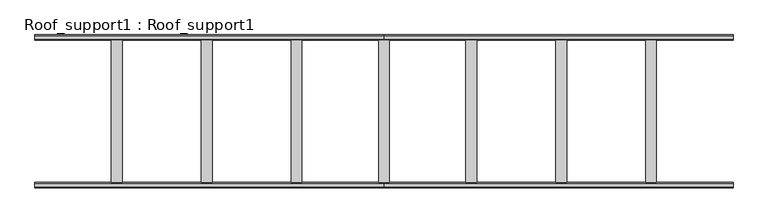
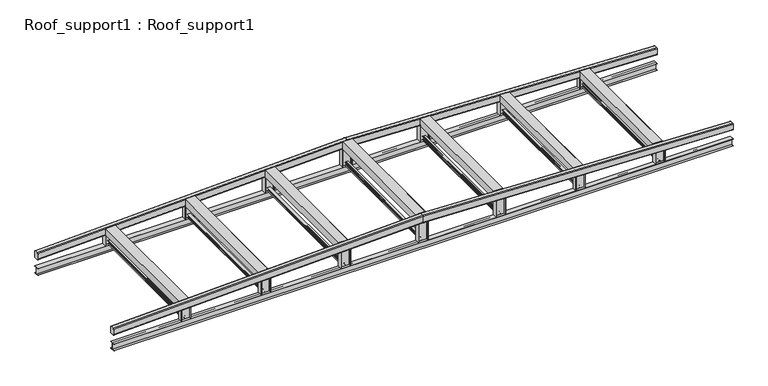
"""IFC4 building model written with IfcOpenShell, lengths in millimetres: beam geometry, Roof_support1 : Roof_support1."""

from ifc_helpers import new_model, si_unit, point, frame, frame_2d, origin, place, context, project, spatial, polyline, circle_curve, trimmed, segment, composite_curve, outline, extrude, source, transform, mapped, element, save
from ifc_brep_helpers import plane_surface, extruded_surface, advanced_brep


def roof_support1_roof_support1_f017d751(model_context):
    return source(origin(), model_context, "Body", "SolidModel", [
        extrude(outline(polyline([(3326.3767243, 5150.0), (3333.4167515, 4948.4), (3177.6863105, 4948.4), (3177.6863105, 4953.4), (3328.2390999, 4953.4), (3321.5482805, 5145.0), (3171.2121292, 5145.0), (3171.0375254, 5150.0), (3326.3767243, 5150.0)])), frame((0.0, -2776.446518, 0.0), z_axis=(0.0, 1.0, 0.0), x_axis=(0.0, 0.0, 1.0)), (0.0, 0.0, 1.0), 2696.8321342),
        extrude(outline(polyline([(3387.6606342, 3450.0), (3394.7006613, 3248.4), (3238.9702203, 3248.4), (3238.9702203, 3253.4), (3389.5230098, 3253.4), (3382.8321903, 3445.0), (3232.4960391, 3445.0), (3232.3214353, 3450.0), (3387.6606342, 3450.0)])), frame((0.0, -2776.446518, 0.0), z_axis=(0.0, 1.0, 0.0), x_axis=(0.0, 0.0, 1.0)), (0.0, 0.0, 1.0), 2696.8321342),
        extrude(outline(polyline([(3448.3765673, 1750.0), (3455.4165944, 1548.4), (3299.6861534, 1548.4), (3299.6861534, 1553.4), (3450.2389429, 1553.4), (3443.5481234, 1745.0), (3293.2119722, 1745.0), (3293.0373683, 1750.0), (3448.3765673, 1750.0)])), frame((0.0, -2776.446518, 0.0), z_axis=(0.0, 1.0, 0.0), x_axis=(0.0, 0.0, 1.0)), (0.0, 0.0, 1.0), 2696.8321342),
        extrude(outline(polyline([(3507.1198461, -100.8), (3340.2193721, -100.8), (3340.393976, -95.8), (3502.1198461, -95.8), (3502.1198461, 95.8), (3340.2799419, 95.8), (3340.2799419, 100.8), (3507.1198461, 100.8), (3507.1198461, -100.8)])), frame((0.0, -2776.446518, 0.0), z_axis=(0.0, 1.0, 0.0), x_axis=(0.0, 0.0, 1.0)), (0.0, 0.0, 1.0), 2696.8321342),
        extrude(outline(polyline([(3446.3767243, -1751.6), (3291.0375254, -1751.6), (3291.2121292, -1746.6), (3441.5482805, -1746.6), (3448.2390999, -1555.0), (3297.6863105, -1555.0), (3297.6863105, -1550.0), (3453.4167515, -1550.0), (3446.3767243, -1751.6)])), frame((0.0, -2776.446518, 0.0), z_axis=(0.0, 1.0, 0.0), x_axis=(0.0, 0.0, 1.0)), (0.0, 0.0, 1.0), 2696.8321342),
        extrude(outline(polyline([(3386.3767243, -3451.6), (3231.0375254, -3451.6), (3231.2121292, -3446.6), (3381.5482805, -3446.6), (3388.2390999, -3255.0), (3237.6863105, -3255.0), (3237.6863105, -3250.0), (3393.4167515, -3250.0), (3386.3767243, -3451.6)])), frame((0.0, -2776.446518, 0.0), z_axis=(0.0, 1.0, 0.0), x_axis=(0.0, 0.0, 1.0)), (0.0, 0.0, 1.0), 2696.8321342),
        extrude(outline(polyline([(3326.3767243, -5151.6), (3171.0375254, -5151.6), (3171.2121292, -5146.6), (3321.5482805, -5146.6), (3328.2390999, -4955.0), (3177.6863105, -4955.0), (3177.6863105, -4950.0), (3333.4167515, -4950.0), (3326.3767243, -5151.6)])), frame((0.0, -2776.446518, 0.0), z_axis=(0.0, 1.0, 0.0), x_axis=(0.0, 0.0, 1.0)), (0.0, 0.0, 1.0), 2696.8321342),
        extrude(outline(composite_curve([segment(polyline([(3003.6, 5081.7625), (3003.6, 5021.4375), (3000.388379, 5021.4375)]), True, "CONTINUOUS"), segment(trimmed(circle_curve(frame_2d((3000.388379, 5023.9312396)), 2.4937396), [point((3000.388379, 5021.4375))], [point((2997.8946395, 5023.9312396))], False, "CARTESIAN"), True, "CONTINUOUS"), segment(polyline([(2997.8946395, 5023.9312396), (2996.9292635, 5042.3517109)]), True, "CONTINUOUS"), segment(trimmed(circle_curve(frame_2d((2990.0622374, 5042.3517109)), 6.8670261), [point((2996.9292635, 5042.3517109))], [point((2990.0622374, 5049.218737))], True, "CARTESIAN"), True, "CONTINUOUS"), segment(polyline([(2990.0622374, 5049.218737), (2940.985965, 5049.218737)]), True, "CONTINUOUS"), segment(trimmed(circle_curve(frame_2d((2940.985965, 5042.3506877)), 6.8680494), [point((2940.985965, 5049.218737))], [point((2934.1179156, 5042.3506877))], True, "CARTESIAN"), True, "CONTINUOUS"), segment(polyline([(2934.1179156, 5042.3506877), (2933.1492258, 5023.8669861)]), True, "CONTINUOUS"), segment(trimmed(circle_curve(frame_2d((2930.6065942, 5024.0002397)), 2.546121), [point((2933.1492258, 5023.8669861))], [point((2930.5621583, 5021.4545065))], False, "CARTESIAN"), True, "CONTINUOUS"), segment(polyline([(2930.5621583, 5021.4545065), (2927.4, 5021.4545065), (2927.4, 5081.7454935), (2930.5621583, 5081.7454935)]), True, "CONTINUOUS"), segment(trimmed(circle_curve(frame_2d((2930.6065942, 5079.1997603)), 2.546121), [point((2930.5621583, 5081.7454935))], [point((2933.1492258, 5079.3330139))], False, "CARTESIAN"), True, "CONTINUOUS"), segment(polyline([(2933.1492258, 5079.3330139), (2934.1179156, 5060.8493123)]), True, "CONTINUOUS"), segment(trimmed(circle_curve(frame_2d((2940.985965, 5060.8493123)), 6.8680494), [point((2934.1179156, 5060.8493123))], [point((2940.985965, 5053.981263))], True, "CARTESIAN"), True, "CONTINUOUS"), segment(polyline([(2940.985965, 5053.981263), (2990.0622374, 5053.981263)]), True, "CONTINUOUS"), segment(trimmed(circle_curve(frame_2d((2990.0622374, 5060.8482891)), 6.8670261), [point((2990.0622374, 5053.981263))], [point((2996.9292635, 5060.8482891))], True, "CARTESIAN"), True, "CONTINUOUS"), segment(polyline([(2996.9292635, 5060.8482891), (2997.8946395, 5079.2687604)]), True, "CONTINUOUS"), segment(trimmed(circle_curve(frame_2d((3000.388379, 5079.2687604)), 2.4937396), [point((2997.8946395, 5079.2687604))], [point((3000.388379, 5081.7625))], False, "CARTESIAN"), True, "CONTINUOUS"), segment(polyline([(3000.388379, 5081.7625), (3003.6, 5081.7625)]), True, "CONTINUOUS")], self_intersect=False)), frame((0.0, -2824.0353472, 0.0), z_axis=(0.0, 1.0, 0.0), x_axis=(0.0, 0.0, 1.0)), (0.0, 0.0, 1.0), 2792.0097926),
        extrude(outline(composite_curve([segment(polyline([(3003.6, 3381.7625), (3003.6, 3321.4375), (3000.388379, 3321.4375)]), True, "CONTINUOUS"), segment(trimmed(circle_curve(frame_2d((3000.388379, 3323.9312396)), 2.4937396), [point((3000.388379, 3321.4375))], [point((2997.8946395, 3323.9312396))], False, "CARTESIAN"), True, "CONTINUOUS"), segment(polyline([(2997.8946395, 3323.9312396), (2996.9292635, 3342.3517109)]), True, "CONTINUOUS"), segment(trimmed(circle_curve(frame_2d((2990.0622374, 3342.3517109)), 6.8670261), [point((2996.9292635, 3342.3517109))], [point((2990.0622374, 3349.218737))], True, "CARTESIAN"), True, "CONTINUOUS"), segment(polyline([(2990.0622374, 3349.218737), (2940.985965, 3349.218737)]), True, "CONTINUOUS"), segment(trimmed(circle_curve(frame_2d((2940.985965, 3342.3506877)), 6.8680494), [point((2940.985965, 3349.218737))], [point((2934.1179156, 3342.3506877))], True, "CARTESIAN"), True, "CONTINUOUS"), segment(polyline([(2934.1179156, 3342.3506877), (2933.1492258, 3323.8669861)]), True, "CONTINUOUS"), segment(trimmed(circle_curve(frame_2d((2930.6065942, 3324.0002397)), 2.546121), [point((2933.1492258, 3323.8669861))], [point((2930.5621583, 3321.4545065))], False, "CARTESIAN"), True, "CONTINUOUS"), segment(polyline([(2930.5621583, 3321.4545065), (2927.4, 3321.4545065), (2927.4, 3381.7454935), (2930.5621583, 3381.7454935)]), True, "CONTINUOUS"), segment(trimmed(circle_curve(frame_2d((2930.6065942, 3379.1997603)), 2.546121), [point((2930.5621583, 3381.7454935))], [point((2933.1492258, 3379.3330139))], False, "CARTESIAN"), True, "CONTINUOUS"), segment(polyline([(2933.1492258, 3379.3330139), (2934.1179156, 3360.8493123)]), True, "CONTINUOUS"), segment(trimmed(circle_curve(frame_2d((2940.985965, 3360.8493123)), 6.8680494), [point((2934.1179156, 3360.8493123))], [point((2940.985965, 3353.981263))], True, "CARTESIAN"), True, "CONTINUOUS"), segment(polyline([(2940.985965, 3353.981263), (2990.0622374, 3353.981263)]), True, "CONTINUOUS"), segment(trimmed(circle_curve(frame_2d((2990.0622374, 3360.8482891)), 6.8670261), [point((2990.0622374, 3353.981263))], [point((2996.9292635, 3360.8482891))], True, "CARTESIAN"), True, "CONTINUOUS"), segment(polyline([(2996.9292635, 3360.8482891), (2997.8946395, 3379.2687604)]), True, "CONTINUOUS"), segment(trimmed(circle_curve(frame_2d((3000.388379, 3379.2687604)), 2.4937396), [point((2997.8946395, 3379.2687604))], [point((3000.388379, 3381.7625))], False, "CARTESIAN"), True, "CONTINUOUS"), segment(polyline([(3000.388379, 3381.7625), (3003.6, 3381.7625)]), True, "CONTINUOUS")], self_intersect=False)), frame((0.0, -2824.0353472, 0.0), z_axis=(0.0, 1.0, 0.0), x_axis=(0.0, 0.0, 1.0)), (0.0, 0.0, 1.0), 2792.0097926),
        extrude(outline(composite_curve([segment(polyline([(3003.6, 1681.7625), (3003.6, 1621.4375), (3000.388379, 1621.4375)]), True, "CONTINUOUS"), segment(trimmed(circle_curve(frame_2d((3000.388379, 1623.9312396)), 2.4937396), [point((3000.388379, 1621.4375))], [point((2997.8946395, 1623.9312396))], False, "CARTESIAN"), True, "CONTINUOUS"), segment(polyline([(2997.8946395, 1623.9312396), (2996.9292635, 1642.3517109)]), True, "CONTINUOUS"), segment(trimmed(circle_curve(frame_2d((2990.0622374, 1642.3517109)), 6.8670261), [point((2996.9292635, 1642.3517109))], [point((2990.0622374, 1649.218737))], True, "CARTESIAN"), True, "CONTINUOUS"), segment(polyline([(2990.0622374, 1649.218737), (2940.985965, 1649.218737)]), True, "CONTINUOUS"), segment(trimmed(circle_curve(frame_2d((2940.985965, 1642.3506877)), 6.8680494), [point((2940.985965, 1649.218737))], [point((2934.1179156, 1642.3506877))], True, "CARTESIAN"), True, "CONTINUOUS"), segment(polyline([(2934.1179156, 1642.3506877), (2933.1492258, 1623.8669861)]), True, "CONTINUOUS"), segment(trimmed(circle_curve(frame_2d((2930.6065942, 1624.0002397)), 2.546121), [point((2933.1492258, 1623.8669861))], [point((2930.5621583, 1621.4545065))], False, "CARTESIAN"), True, "CONTINUOUS"), segment(polyline([(2930.5621583, 1621.4545065), (2927.4, 1621.4545065), (2927.4, 1681.7454935), (2930.5621583, 1681.7454935)]), True, "CONTINUOUS"), segment(trimmed(circle_curve(frame_2d((2930.6065942, 1679.1997603)), 2.546121), [point((2930.5621583, 1681.7454935))], [point((2933.1492258, 1679.3330139))], False, "CARTESIAN"), True, "CONTINUOUS"), segment(polyline([(2933.1492258, 1679.3330139), (2934.1179156, 1660.8493123)]), True, "CONTINUOUS"), segment(trimmed(circle_curve(frame_2d((2940.985965, 1660.8493123)), 6.8680494), [point((2934.1179156, 1660.8493123))], [point((2940.985965, 1653.981263))], True, "CARTESIAN"), True, "CONTINUOUS"), segment(polyline([(2940.985965, 1653.981263), (2990.0622374, 1653.981263)]), True, "CONTINUOUS"), segment(trimmed(circle_curve(frame_2d((2990.0622374, 1660.8482891)), 6.8670261), [point((2990.0622374, 1653.981263))], [point((2996.9292635, 1660.8482891))], True, "CARTESIAN"), True, "CONTINUOUS"), segment(polyline([(2996.9292635, 1660.8482891), (2997.8946395, 1679.2687604)]), True, "CONTINUOUS"), segment(trimmed(circle_curve(frame_2d((3000.388379, 1679.2687604)), 2.4937396), [point((2997.8946395, 1679.2687604))], [point((3000.388379, 1681.7625))], False, "CARTESIAN"), True, "CONTINUOUS"), segment(polyline([(3000.388379, 1681.7625), (3003.6, 1681.7625)]), True, "CONTINUOUS")], self_intersect=False)), frame((0.0, -2824.0353472, 0.0), z_axis=(0.0, 1.0, 0.0), x_axis=(0.0, 0.0, 1.0)), (0.0, 0.0, 1.0), 2792.0097926),
        extrude(outline(composite_curve([segment(polyline([(3003.6, 31.7625), (3003.6, -28.5625), (3000.388379, -28.5625)]), True, "CONTINUOUS"), segment(trimmed(circle_curve(frame_2d((3000.388379, -26.0687604)), 2.4937396), [point((3000.388379, -28.5625))], [point((2997.8946395, -26.0687604))], False, "CARTESIAN"), True, "CONTINUOUS"), segment(polyline([(2997.8946395, -26.0687604), (2996.9292635, -7.6482891)]), True, "CONTINUOUS"), segment(trimmed(circle_curve(frame_2d((2990.0622374, -7.6482891)), 6.8670261), [point((2996.9292635, -7.6482891))], [point((2990.0622374, -0.781263))], True, "CARTESIAN"), True, "CONTINUOUS"), segment(polyline([(2990.0622374, -0.781263), (2940.985965, -0.781263)]), True, "CONTINUOUS"), segment(trimmed(circle_curve(frame_2d((2940.985965, -7.6493123)), 6.8680494), [point((2940.985965, -0.781263))], [point((2934.1179156, -7.6493123))], True, "CARTESIAN"), True, "CONTINUOUS"), segment(polyline([(2934.1179156, -7.6493123), (2933.1492258, -26.1330139)]), True, "CONTINUOUS"), segment(trimmed(circle_curve(frame_2d((2930.6065942, -25.9997603)), 2.546121), [point((2933.1492258, -26.1330139))], [point((2930.5621583, -28.5454935))], False, "CARTESIAN"), True, "CONTINUOUS"), segment(polyline([(2930.5621583, -28.5454935), (2927.4, -28.5454935), (2927.4, 31.7454935), (2930.5621583, 31.7454935)]), True, "CONTINUOUS"), segment(trimmed(circle_curve(frame_2d((2930.6065942, 29.1997603)), 2.546121), [point((2930.5621583, 31.7454935))], [point((2933.1492258, 29.3330139))], False, "CARTESIAN"), True, "CONTINUOUS"), segment(polyline([(2933.1492258, 29.3330139), (2934.1179156, 10.8493123)]), True, "CONTINUOUS"), segment(trimmed(circle_curve(frame_2d((2940.985965, 10.8493123)), 6.8680494), [point((2934.1179156, 10.8493123))], [point((2940.985965, 3.981263))], True, "CARTESIAN"), True, "CONTINUOUS"), segment(polyline([(2940.985965, 3.981263), (2990.0622374, 3.981263)]), True, "CONTINUOUS"), segment(trimmed(circle_curve(frame_2d((2990.0622374, 10.8482891)), 6.8670261), [point((2990.0622374, 3.981263))], [point((2996.9292635, 10.8482891))], True, "CARTESIAN"), True, "CONTINUOUS"), segment(polyline([(2996.9292635, 10.8482891), (2997.8946395, 29.2687604)]), True, "CONTINUOUS"), segment(trimmed(circle_curve(frame_2d((3000.388379, 29.2687604)), 2.4937396), [point((2997.8946395, 29.2687604))], [point((3000.388379, 31.7625))], False, "CARTESIAN"), True, "CONTINUOUS"), segment(polyline([(3000.388379, 31.7625), (3003.6, 31.7625)]), True, "CONTINUOUS")], self_intersect=False)), frame((0.0, -2824.0353472, 0.0), z_axis=(0.0, 1.0, 0.0), x_axis=(0.0, 0.0, 1.0)), (0.0, 0.0, 1.0), 2792.0097926),
        extrude(outline(composite_curve([segment(polyline([(3003.6, -1619.8375), (3003.6, -1680.1625), (3000.388379, -1680.1625)]), True, "CONTINUOUS"), segment(trimmed(circle_curve(frame_2d((3000.388379, -1677.6687604)), 2.4937396), [point((3000.388379, -1680.1625))], [point((2997.8946395, -1677.6687604))], False, "CARTESIAN"), True, "CONTINUOUS"), segment(polyline([(2997.8946395, -1677.6687604), (2996.9292635, -1659.2482891)]), True, "CONTINUOUS"), segment(trimmed(circle_curve(frame_2d((2990.0622374, -1659.2482891)), 6.8670261), [point((2996.9292635, -1659.2482891))], [point((2990.0622374, -1652.381263))], True, "CARTESIAN"), True, "CONTINUOUS"), segment(polyline([(2990.0622374, -1652.381263), (2940.985965, -1652.381263)]), True, "CONTINUOUS"), segment(trimmed(circle_curve(frame_2d((2940.985965, -1659.2493123)), 6.8680494), [point((2940.985965, -1652.381263))], [point((2934.1179156, -1659.2493123))], True, "CARTESIAN"), True, "CONTINUOUS"), segment(polyline([(2934.1179156, -1659.2493123), (2933.1492258, -1677.7330139)]), True, "CONTINUOUS"), segment(trimmed(circle_curve(frame_2d((2930.6065942, -1677.5997603)), 2.546121), [point((2933.1492258, -1677.7330139))], [point((2930.5621583, -1680.1454935))], False, "CARTESIAN"), True, "CONTINUOUS"), segment(polyline([(2930.5621583, -1680.1454935), (2927.4, -1680.1454935), (2927.4, -1619.8545065), (2930.5621583, -1619.8545065)]), True, "CONTINUOUS"), segment(trimmed(circle_curve(frame_2d((2930.6065942, -1622.4002397)), 2.546121), [point((2930.5621583, -1619.8545065))], [point((2933.1492258, -1622.2669861))], False, "CARTESIAN"), True, "CONTINUOUS"), segment(polyline([(2933.1492258, -1622.2669861), (2934.1179156, -1640.7506877)]), True, "CONTINUOUS"), segment(trimmed(circle_curve(frame_2d((2940.985965, -1640.7506877)), 6.8680494), [point((2934.1179156, -1640.7506877))], [point((2940.985965, -1647.618737))], True, "CARTESIAN"), True, "CONTINUOUS"), segment(polyline([(2940.985965, -1647.618737), (2990.0622374, -1647.618737)]), True, "CONTINUOUS"), segment(trimmed(circle_curve(frame_2d((2990.0622374, -1640.7517109)), 6.8670261), [point((2990.0622374, -1647.618737))], [point((2996.9292635, -1640.7517109))], True, "CARTESIAN"), True, "CONTINUOUS"), segment(polyline([(2996.9292635, -1640.7517109), (2997.8946395, -1622.3312396)]), True, "CONTINUOUS"), segment(trimmed(circle_curve(frame_2d((3000.388379, -1622.3312396)), 2.4937396), [point((2997.8946395, -1622.3312396))], [point((3000.388379, -1619.8375))], False, "CARTESIAN"), True, "CONTINUOUS"), segment(polyline([(3000.388379, -1619.8375), (3003.6, -1619.8375)]), True, "CONTINUOUS")], self_intersect=False)), frame((0.0, -2824.0353472, 0.0), z_axis=(0.0, 1.0, 0.0), x_axis=(0.0, 0.0, 1.0)), (0.0, 0.0, 1.0), 2792.0097926),
        extrude(outline(composite_curve([segment(polyline([(3003.6, -3319.8375), (3003.6, -3380.1625), (3000.388379, -3380.1625)]), True, "CONTINUOUS"), segment(trimmed(circle_curve(frame_2d((3000.388379, -3377.6687604)), 2.4937396), [point((3000.388379, -3380.1625))], [point((2997.8946395, -3377.6687604))], False, "CARTESIAN"), True, "CONTINUOUS"), segment(polyline([(2997.8946395, -3377.6687604), (2996.9292635, -3359.2482891)]), True, "CONTINUOUS"), segment(trimmed(circle_curve(frame_2d((2990.0622374, -3359.2482891)), 6.8670261), [point((2996.9292635, -3359.2482891))], [point((2990.0622374, -3352.381263))], True, "CARTESIAN"), True, "CONTINUOUS"), segment(polyline([(2990.0622374, -3352.381263), (2940.985965, -3352.381263)]), True, "CONTINUOUS"), segment(trimmed(circle_curve(frame_2d((2940.985965, -3359.2493123)), 6.8680494), [point((2940.985965, -3352.381263))], [point((2934.1179156, -3359.2493123))], True, "CARTESIAN"), True, "CONTINUOUS"), segment(polyline([(2934.1179156, -3359.2493123), (2933.1492258, -3377.7330139)]), True, "CONTINUOUS"), segment(trimmed(circle_curve(frame_2d((2930.6065942, -3377.5997603)), 2.546121), [point((2933.1492258, -3377.7330139))], [point((2930.5621583, -3380.1454935))], False, "CARTESIAN"), True, "CONTINUOUS"), segment(polyline([(2930.5621583, -3380.1454935), (2927.4, -3380.1454935), (2927.4, -3319.8545065), (2930.5621583, -3319.8545065)]), True, "CONTINUOUS"), segment(trimmed(circle_curve(frame_2d((2930.6065942, -3322.4002397)), 2.546121), [point((2930.5621583, -3319.8545065))], [point((2933.1492258, -3322.2669861))], False, "CARTESIAN"), True, "CONTINUOUS"), segment(polyline([(2933.1492258, -3322.2669861), (2934.1179156, -3340.7506877)]), True, "CONTINUOUS"), segment(trimmed(circle_curve(frame_2d((2940.985965, -3340.7506877)), 6.8680494), [point((2934.1179156, -3340.7506877))], [point((2940.985965, -3347.618737))], True, "CARTESIAN"), True, "CONTINUOUS"), segment(polyline([(2940.985965, -3347.618737), (2990.0622374, -3347.618737)]), True, "CONTINUOUS"), segment(trimmed(circle_curve(frame_2d((2990.0622374, -3340.7517109)), 6.8670261), [point((2990.0622374, -3347.618737))], [point((2996.9292635, -3340.7517109))], True, "CARTESIAN"), True, "CONTINUOUS"), segment(polyline([(2996.9292635, -3340.7517109), (2997.8946395, -3322.3312396)]), True, "CONTINUOUS"), segment(trimmed(circle_curve(frame_2d((3000.388379, -3322.3312396)), 2.4937396), [point((2997.8946395, -3322.3312396))], [point((3000.388379, -3319.8375))], False, "CARTESIAN"), True, "CONTINUOUS"), segment(polyline([(3000.388379, -3319.8375), (3003.6, -3319.8375)]), True, "CONTINUOUS")], self_intersect=False)), frame((0.0, -2824.0353472, 0.0), z_axis=(0.0, 1.0, 0.0), x_axis=(0.0, 0.0, 1.0)), (0.0, 0.0, 1.0), 2792.0097926),
        extrude(outline(polyline([(-4954.75, -79.6304509), (-4954.75, -32.0304509), (-5145.25, -32.0304509), (-5145.25, -79.6304509), (-5151.6, -79.6304509), (-5151.6, 21.9695491), (-5145.25, 21.9695491), (-5145.25, -25.6304509), (-4954.75, -25.6304509), (-4954.75, 21.9695491), (-4950.0, 21.9695491), (-4950.0, -79.6304509), (-4954.75, -79.6304509)])), frame((0.0, 0.0, 2927.4), z_axis=(0.0, 0.0, 1.0), x_axis=(1.0, 0.0, 0.0)), (0.0, 0.0, 1.0), 243.3969424),
        extrude(outline(polyline([(-3254.75, -79.6304509), (-3254.75, -32.0304509), (-3445.25, -32.0304509), (-3445.25, -79.6304509), (-3451.6, -79.6304509), (-3451.6, 21.9695491), (-3445.25, 21.9695491), (-3445.25, -25.6304509), (-3254.75, -25.6304509), (-3254.75, 21.9695491), (-3250.0, 21.9695491), (-3250.0, -79.6304509), (-3254.75, -79.6304509)])), frame((0.0, 0.0, 2927.4), z_axis=(0.0, 0.0, 1.0), x_axis=(1.0, 0.0, 0.0)), (0.0, 0.0, 1.0), 300.0067041),
        extrude(outline(polyline([(-1554.75, -79.6304509), (-1554.75, -32.0304509), (-1745.25, -32.0304509), (-1745.25, -79.6304509), (-1751.6, -79.6304509), (-1751.6, 21.9695491), (-1745.25, 21.9695491), (-1745.25, -25.6304509), (-1554.75, -25.6304509), (-1554.75, 21.9695491), (-1550.0, 21.9695491), (-1550.0, -79.6304509), (-1554.75, -79.6304509)])), frame((0.0, 0.0, 2927.4), z_axis=(0.0, 0.0, 1.0), x_axis=(1.0, 0.0, 0.0)), (0.0, 0.0, 1.0), 370.0191844),
        extrude(outline(polyline([(4954.75, -79.6304509), (4950.0, -79.6304509), (4950.0, 21.9695491), (4954.75, 21.9695491), (4954.75, -25.6304509), (5145.25, -25.6304509), (5145.25, 21.9695491), (5151.6, 21.9695491), (5151.6, -79.6304509), (5145.25, -79.6304509), (5145.25, -32.0304509), (4954.75, -32.0304509), (4954.75, -79.6304509)])), frame((0.0, 0.0, 2927.4), z_axis=(0.0, 0.0, 1.0), x_axis=(1.0, 0.0, 0.0)), (0.0, 0.0, 1.0), 243.4921623),
        extrude(outline(polyline([(3254.75, -79.6304509), (3250.0, -79.6304509), (3250.0, 21.9695491), (3254.75, 21.9695491), (3254.75, -25.6304509), (3445.25, -25.6304509), (3445.25, 21.9695491), (3451.6, 21.9695491), (3451.6, -79.6304509), (3445.25, -79.6304509), (3445.25, -32.0304509), (3254.75, -32.0304509), (3254.75, -79.6304509)])), frame((0.0, 0.0, 2927.4), z_axis=(0.0, 0.0, 1.0), x_axis=(1.0, 0.0, 0.0)), (0.0, 0.0, 1.0), 300.1949921),
        extrude(outline(polyline([(1554.75, -79.6304509), (1550.0, -79.6304509), (1550.0, 21.9695491), (1554.75, 21.9695491), (1554.75, -25.6304509), (1745.25, -25.6304509), (1745.25, 21.9695491), (1751.6, 21.9695491), (1751.6, -79.6304509), (1745.25, -79.6304509), (1745.25, -32.0304509), (1554.75, -32.0304509), (1554.75, -79.6304509)])), frame((0.0, 0.0, 2927.4), z_axis=(0.0, 0.0, 1.0), x_axis=(1.0, 0.0, 0.0)), (0.0, 0.0, 1.0), 356.5460478),
        extrude(outline(polyline([(-95.25, -79.6304509), (-100.0, -79.6304509), (-100.0, 21.9695491), (-95.25, 21.9695491), (-95.25, -25.6304509), (95.25, -25.6304509), (95.25, 21.9695491), (101.6, 21.9695491), (101.6, -79.6304509), (95.25, -79.6304509), (95.25, -32.0304509), (-95.25, -32.0304509), (-95.25, -79.6304509)])), frame((0.0, 0.0, 2927.4), z_axis=(0.0, 0.0, 1.0), x_axis=(1.0, 0.0, 0.0)), (0.0, 0.0, 1.0), 412.8799419),
        extrude(outline(polyline([(21.9632746, 2927.4), (21.9632746, 2924.2490079), (-25.6255546, 2924.2490079), (-25.6255546, 2778.2490079), (21.9632746, 2778.2490079), (21.9632746, 2775.0490079), (-79.6143838, 2775.0490079), (-79.6143838, 2778.2490079), (-32.0255546, 2778.2490079), (-32.0255546, 2924.2490079), (-79.6143838, 2924.2490079), (-79.6143838, 2927.4), (21.9632746, 2927.4)])), frame((-6597.6, 0.0, 0.0), z_axis=(1.0, 0.0, 0.0), x_axis=(0.0, 1.0, 0.0)), (0.0, 0.0, 1.0), 13195.2),
        advanced_brep(
        [(6597.6, 21.9695491, 3259.0), (6597.6, 5.9695491, 3275.0), (6597.6, -63.5911139, 3275.0), (6597.6, -79.5911139, 3259.0), (6597.6, -79.5911139, 3138.6), (6597.6, -63.5911139, 3122.6), (6597.6, 5.9695491, 3122.6), (6597.6, 21.9695491, 3138.6), (0.0, 21.9695491, 3494.7476636), (0.0, 21.9695491, 3359.6), (0.0, 5.9695491, 3343.6), (0.0, -63.6304509, 3343.6), (0.0, -79.6304509, 3359.6), (0.0, -79.6304509, 3494.7476636), (0.0, -63.6304509, 3510.7476636), (0.0, 5.9695491, 3510.7476636)],
        [
            (0, 1, circle_curve(frame((6597.6, 5.9695491, 3259.0), z_axis=(1.0, 0.0, 0.0), x_axis=(0.0, -1.0, 0.0)), 16.0)),
            (1, 2),
            (2, 3, circle_curve(frame((6597.6, -63.5911139, 3259.0), z_axis=(1.0, 0.0, 0.0), x_axis=(0.0, -1.0, 0.0)), 16.0)),
            (3, 4),
            (4, 5, circle_curve(frame((6597.6, -63.5911139, 3138.6), z_axis=(1.0, 0.0, 0.0), x_axis=(0.0, -1.0, 0.0)), 16.0)),
            (5, 6),
            (6, 7, circle_curve(frame((6597.6, 5.9695491, 3138.6), z_axis=(1.0, 0.0, 0.0), x_axis=(0.0, -1.0, 0.0)), 16.0)),
            (7, 0),
            (8, 9),
            (9, 10, circle_curve(frame((0.0, 5.9695491, 3359.6), z_axis=(-1.0, 0.0, 0.0), x_axis=(0.0, -1.0, 0.0)), 16.0)),
            (10, 11),
            (11, 12, circle_curve(frame((0.0, -63.6304509, 3359.6), z_axis=(-1.0, 0.0, 0.0), x_axis=(0.0, -1.0, 0.0)), 16.0)),
            (12, 13),
            (13, 14, circle_curve(frame((0.0, -63.6304509, 3494.7476636), z_axis=(-1.0, 0.0, 0.0), x_axis=(0.0, -1.0, 0.0)), 16.0)),
            (14, 15),
            (15, 8, circle_curve(frame((0.0, 5.9695491, 3494.7476636), z_axis=(-1.0, 0.0, 0.0), x_axis=(0.0, -1.0, 0.0)), 16.0)),
            (15, 1),
            (0, 8),
            (14, 2),
            (13, 3),
            (12, 4),
            (11, 5),
            (10, 6),
            (9, 7),
        ],
        [
            plane_surface(frame((6597.6, -28.8107824, 3198.8), z_axis=(1.0, 0.0, 0.0), x_axis=(0.0, 1.0, 0.0))),
            plane_surface(frame((0.0, -28.8304509, 3427.1738318), z_axis=(-1.0, 0.0, 0.0), x_axis=(0.0, 1.0, 0.0))),
            extruded_surface(trimmed(circle_curve(frame((0.0, 5.9695491, 3494.7476636), z_axis=(1.0, 0.0, 0.0), x_axis=(0.0, -1.0, 0.0)), 16.0), [point((0.0, 21.9695491, 3494.7476636))], [point((0.0, 5.9695491, 3510.7476636))], True, "CARTESIAN"), (6597.6, 0.0, -235.74766360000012), 6601.810563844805),
            plane_surface(frame((0.0, -28.8304509, 3510.7476636), z_axis=(0.035709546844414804, 0.0, 0.9993622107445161), x_axis=(0.0, -1.0, 0.0))),
            extruded_surface(trimmed(circle_curve(frame((0.0, -63.6304509, 3494.7476636), z_axis=(1.0, 0.0, 0.0), x_axis=(0.0, -1.0, 0.0)), 16.0), [point((0.0, -63.6304509, 3510.7476636))], [point((0.0, -79.6304509, 3494.7476636))], True, "CARTESIAN"), (6597.6, 0.03933699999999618, -235.74766360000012), 6601.810563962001),
            plane_surface(frame((0.0, -79.6304509, 3427.1738318), z_axis=(5.9623234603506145e-06, -0.9999999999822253, 0.0), x_axis=(0.0, 0.0, -1.0))),
            extruded_surface(trimmed(circle_curve(frame((0.0, -63.6304509, 3359.6), z_axis=(1.0, 0.0, 0.0), x_axis=(0.0, -1.0, 0.0)), 16.0), [point((0.0, -79.6304509, 3359.6))], [point((0.0, -63.6304509, 3343.6))], True, "CARTESIAN"), (6597.6, 0.03933699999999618, -221.0), 6601.300384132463),
            plane_surface(frame((0.0, -28.8304509, 3343.6), z_axis=(-0.033478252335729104, 0.0, -0.9994394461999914), x_axis=(0.0, 1.0, 0.0))),
            extruded_surface(trimmed(circle_curve(frame((0.0, 5.9695491, 3359.6), z_axis=(1.0, 0.0, 0.0), x_axis=(0.0, -1.0, 0.0)), 16.0), [point((0.0, 5.9695491, 3343.6))], [point((0.0, 21.9695491, 3359.6))], True, "CARTESIAN"), (6597.6, 0.0, -221.0), 6601.300384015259),
            plane_surface(frame((0.0, 21.9695491, 3427.1738318), z_axis=(0.0, 1.0, 0.0), x_axis=(0.0, 0.0, 1.0))),
        ],
        [
            (0, [[1, 2, 3, 4, 5, 6, 7, 8]]),
            (1, [[9, 10, 11, 12, 13, 14, 15, 16]]),
            (2, [[-16, 17, -1, 18]]),
            (3, [[-15, 19, -2, -17]]),
            (4, [[-14, 20, -3, -19]]),
            (5, [[-13, 21, -4, -20]]),
            (6, [[-12, 22, -5, -21]]),
            (7, [[-11, 23, -6, -22]]),
            (8, [[-10, 24, -7, -23]]),
            (9, [[-9, -18, -8, -24]]),
        ],
    ),
        advanced_brep(
        [(-6597.6, 21.9695491, 3259.0), (-6597.6, 21.9695491, 3138.6), (-6597.6, 5.9695491, 3122.6), (-6597.6, -63.5911139, 3122.6), (-6597.6, -79.5911139, 3138.6), (-6597.6, -79.5911139, 3259.0), (-6597.6, -63.5911139, 3275.0), (-6597.6, 5.9695491, 3275.0), (0.0, 21.9695491, 3494.7476636), (0.0, 5.9695491, 3510.7476636), (0.0, -63.6304509, 3510.7476636), (0.0, -79.6304509, 3494.7476636), (0.0, -79.6304509, 3359.6), (0.0, -63.6304509, 3343.6), (0.0, 5.9695491, 3343.6), (0.0, 21.9695491, 3359.6)],
        [
            (0, 1),
            (1, 2, circle_curve(frame((-6597.6, 5.9695491, 3138.6), z_axis=(-1.0, 0.0, 0.0), x_axis=(0.0, -1.0, 0.0)), 16.0)),
            (2, 3),
            (3, 4, circle_curve(frame((-6597.6, -63.5911139, 3138.6), z_axis=(-1.0, 0.0, 0.0), x_axis=(0.0, -1.0, 0.0)), 16.0)),
            (4, 5),
            (5, 6, circle_curve(frame((-6597.6, -63.5911139, 3259.0), z_axis=(-1.0, 0.0, 0.0), x_axis=(0.0, -1.0, 0.0)), 16.0)),
            (6, 7),
            (7, 0, circle_curve(frame((-6597.6, 5.9695491, 3259.0), z_axis=(-1.0, 0.0, 0.0), x_axis=(0.0, -1.0, 0.0)), 16.0)),
            (8, 9, circle_curve(frame((0.0, 5.9695491, 3494.7476636), z_axis=(1.0, 0.0, 0.0), x_axis=(0.0, -1.0, 0.0)), 16.0)),
            (9, 10),
            (10, 11, circle_curve(frame((0.0, -63.6304509, 3494.7476636), z_axis=(1.0, 0.0, 0.0), x_axis=(0.0, -1.0, 0.0)), 16.0)),
            (11, 12),
            (12, 13, circle_curve(frame((0.0, -63.6304509, 3359.6), z_axis=(1.0, 0.0, 0.0), x_axis=(0.0, -1.0, 0.0)), 16.0)),
            (13, 14),
            (14, 15, circle_curve(frame((0.0, 5.9695491, 3359.6), z_axis=(1.0, 0.0, 0.0), x_axis=(0.0, -1.0, 0.0)), 16.0)),
            (15, 8),
            (8, 0),
            (7, 9),
            (6, 10),
            (5, 11),
            (4, 12),
            (3, 13),
            (2, 14),
            (1, 15),
        ],
        [
            plane_surface(frame((-6597.6, -28.8107824, 3198.8), z_axis=(-1.0, 0.0, 0.0), x_axis=(0.0, -1.0, 0.0))),
            plane_surface(frame((0.0, -28.8304509, 3427.1738318), z_axis=(1.0, 0.0, 0.0), x_axis=(0.0, -1.0, 0.0))),
            extruded_surface(trimmed(circle_curve(frame((0.0, 5.9695491, 3494.7476636), z_axis=(-1.0, 0.0, 0.0), x_axis=(0.0, -1.0, 0.0)), 16.0), [point((0.0, 5.9695491, 3510.7476636))], [point((0.0, 21.9695491, 3494.7476636))], True, "CARTESIAN"), (-6597.6, 0.0, -235.74766360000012), 6601.810563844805),
            plane_surface(frame((0.0, -28.8304509, 3510.7476636), z_axis=(-0.03570954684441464, 0.0, 0.9993622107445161), x_axis=(0.0, 1.0, 0.0))),
            extruded_surface(trimmed(circle_curve(frame((0.0, -63.6304509, 3494.7476636), z_axis=(-1.0, 0.0, 0.0), x_axis=(0.0, -1.0, 0.0)), 16.0), [point((0.0, -79.6304509, 3494.7476636))], [point((0.0, -63.6304509, 3510.7476636))], True, "CARTESIAN"), (-6597.6, 0.03933699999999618, -235.74766360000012), 6601.810563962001),
            plane_surface(frame((0.0, -79.6304509, 3427.1738318), z_axis=(-5.96232347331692e-06, -0.9999999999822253, 0.0), x_axis=(0.0, 0.0, 1.0))),
            extruded_surface(trimmed(circle_curve(frame((0.0, -63.6304509, 3359.6), z_axis=(-1.0, 0.0, 0.0), x_axis=(0.0, -1.0, 0.0)), 16.0), [point((0.0, -63.6304509, 3343.6))], [point((0.0, -79.6304509, 3359.6))], True, "CARTESIAN"), (-6597.6, 0.03933699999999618, -221.0), 6601.300384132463),
            plane_surface(frame((0.0, -28.8304509, 3343.6), z_axis=(0.033478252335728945, 0.0, -0.9994394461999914), x_axis=(0.0, -1.0, 0.0))),
            extruded_surface(trimmed(circle_curve(frame((0.0, 5.9695491, 3359.6), z_axis=(-1.0, 0.0, 0.0), x_axis=(0.0, -1.0, 0.0)), 16.0), [point((0.0, 21.9695491, 3359.6))], [point((0.0, 5.9695491, 3343.6))], True, "CARTESIAN"), (-6597.6, 0.0, -221.0), 6601.300384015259),
            plane_surface(frame((0.0, 21.9695491, 3427.1738318), z_axis=(0.0, 1.0, 0.0), x_axis=(0.0, 0.0, -1.0))),
        ],
        [
            (0, [[1, 2, 3, 4, 5, 6, 7, 8]]),
            (1, [[9, 10, 11, 12, 13, 14, 15, 16]]),
            (2, [[-9, 17, -8, 18]]),
            (3, [[-10, -18, -7, 19]]),
            (4, [[-11, -19, -6, 20]]),
            (5, [[-12, -20, -5, 21]]),
            (6, [[-13, -21, -4, 22]]),
            (7, [[-14, -22, -3, 23]]),
            (8, [[-15, -23, -2, 24]]),
            (9, [[-16, -24, -1, -17]]),
        ],
    ),
        extrude(outline(composite_curve([segment(polyline([(3003.6, -5019.8375), (3003.6, -5080.1625), (3000.388379, -5080.1625)]), True, "CONTINUOUS"), segment(trimmed(circle_curve(frame_2d((3000.388379, -5077.6687604)), 2.4937396), [point((3000.388379, -5080.1625))], [point((2997.8946395, -5077.6687604))], False, "CARTESIAN"), True, "CONTINUOUS"), segment(polyline([(2997.8946395, -5077.6687604), (2996.9292635, -5059.2482891)]), True, "CONTINUOUS"), segment(trimmed(circle_curve(frame_2d((2990.0622374, -5059.2482891)), 6.8670261), [point((2996.9292635, -5059.2482891))], [point((2990.0622374, -5052.381263))], True, "CARTESIAN"), True, "CONTINUOUS"), segment(polyline([(2990.0622374, -5052.381263), (2940.985965, -5052.381263)]), True, "CONTINUOUS"), segment(trimmed(circle_curve(frame_2d((2940.985965, -5059.2493123)), 6.8680494), [point((2940.985965, -5052.381263))], [point((2934.1179156, -5059.2493123))], True, "CARTESIAN"), True, "CONTINUOUS"), segment(polyline([(2934.1179156, -5059.2493123), (2933.1492258, -5077.7330139)]), True, "CONTINUOUS"), segment(trimmed(circle_curve(frame_2d((2930.6065942, -5077.5997603)), 2.546121), [point((2933.1492258, -5077.7330139))], [point((2930.5621583, -5080.1454935))], False, "CARTESIAN"), True, "CONTINUOUS"), segment(polyline([(2930.5621583, -5080.1454935), (2927.4, -5080.1454935), (2927.4, -5019.8545065), (2930.5621583, -5019.8545065)]), True, "CONTINUOUS"), segment(trimmed(circle_curve(frame_2d((2930.6065942, -5022.4002397)), 2.546121), [point((2930.5621583, -5019.8545065))], [point((2933.1492258, -5022.2669861))], False, "CARTESIAN"), True, "CONTINUOUS"), segment(polyline([(2933.1492258, -5022.2669861), (2934.1179156, -5040.7506877)]), True, "CONTINUOUS"), segment(trimmed(circle_curve(frame_2d((2940.985965, -5040.7506877)), 6.8680494), [point((2934.1179156, -5040.7506877))], [point((2940.985965, -5047.618737))], True, "CARTESIAN"), True, "CONTINUOUS"), segment(polyline([(2940.985965, -5047.618737), (2990.0622374, -5047.618737)]), True, "CONTINUOUS"), segment(trimmed(circle_curve(frame_2d((2990.0622374, -5040.7517109)), 6.8670261), [point((2990.0622374, -5047.618737))], [point((2996.9292635, -5040.7517109))], True, "CARTESIAN"), True, "CONTINUOUS"), segment(polyline([(2996.9292635, -5040.7517109), (2997.8946395, -5022.3312396)]), True, "CONTINUOUS"), segment(trimmed(circle_curve(frame_2d((3000.388379, -5022.3312396)), 2.4937396), [point((2997.8946395, -5022.3312396))], [point((3000.388379, -5019.8375))], False, "CARTESIAN"), True, "CONTINUOUS"), segment(polyline([(3000.388379, -5019.8375), (3003.6, -5019.8375)]), True, "CONTINUOUS")], self_intersect=False)), frame((0.0, -2824.0353472, 0.0), z_axis=(0.0, 1.0, 0.0), x_axis=(0.0, 0.0, 1.0)), (0.0, 0.0, 1.0), 2792.0097926),
        extrude(outline(polyline([(-4954.75, -2776.4304509), (-4950.0, -2776.4304509), (-4950.0, -2878.0304509), (-4954.75, -2878.0304509), (-4954.75, -2830.4304509), (-5145.25, -2830.4304509), (-5145.25, -2878.0304509), (-5151.6, -2878.0304509), (-5151.6, -2776.4304509), (-5145.25, -2776.4304509), (-5145.25, -2824.0304509), (-4954.75, -2824.0304509), (-4954.75, -2776.4304509)])), frame((0.0, 0.0, 2927.4), z_axis=(0.0, 0.0, 1.0), x_axis=(1.0, 0.0, 0.0)), (0.0, 0.0, 1.0), 243.3969424),
        extrude(outline(polyline([(-3254.75, -2776.4304509), (-3250.0, -2776.4304509), (-3250.0, -2878.0304509), (-3254.75, -2878.0304509), (-3254.75, -2830.4304509), (-3445.25, -2830.4304509), (-3445.25, -2878.0304509), (-3451.6, -2878.0304509), (-3451.6, -2776.4304509), (-3445.25, -2776.4304509), (-3445.25, -2824.0304509), (-3254.75, -2824.0304509), (-3254.75, -2776.4304509)])), frame((0.0, 0.0, 2927.4), z_axis=(0.0, 0.0, 1.0), x_axis=(1.0, 0.0, 0.0)), (0.0, 0.0, 1.0), 300.0067041),
        extrude(outline(polyline([(-1554.75, -2776.4304509), (-1550.0, -2776.4304509), (-1550.0, -2878.0304509), (-1554.75, -2878.0304509), (-1554.75, -2830.4304509), (-1745.25, -2830.4304509), (-1745.25, -2878.0304509), (-1751.6, -2878.0304509), (-1751.6, -2776.4304509), (-1745.25, -2776.4304509), (-1745.25, -2824.0304509), (-1554.75, -2824.0304509), (-1554.75, -2776.4304509)])), frame((0.0, 0.0, 2927.4), z_axis=(0.0, 0.0, 1.0), x_axis=(1.0, 0.0, 0.0)), (0.0, 0.0, 1.0), 370.0191844),
        extrude(outline(polyline([(4954.75, -2776.4304509), (4954.75, -2824.0304509), (5145.25, -2824.0304509), (5145.25, -2776.4304509), (5151.6, -2776.4304509), (5151.6, -2878.0304509), (5145.25, -2878.0304509), (5145.25, -2830.4304509), (4954.75, -2830.4304509), (4954.75, -2878.0304509), (4950.0, -2878.0304509), (4950.0, -2776.4304509), (4954.75, -2776.4304509)])), frame((0.0, 0.0, 2927.4), z_axis=(0.0, 0.0, 1.0), x_axis=(1.0, 0.0, 0.0)), (0.0, 0.0, 1.0), 243.4921623),
        extrude(outline(polyline([(3254.75, -2776.4304509), (3254.75, -2824.0304509), (3445.25, -2824.0304509), (3445.25, -2776.4304509), (3451.6, -2776.4304509), (3451.6, -2878.0304509), (3445.25, -2878.0304509), (3445.25, -2830.4304509), (3254.75, -2830.4304509), (3254.75, -2878.0304509), (3250.0, -2878.0304509), (3250.0, -2776.4304509), (3254.75, -2776.4304509)])), frame((0.0, 0.0, 2927.4), z_axis=(0.0, 0.0, 1.0), x_axis=(1.0, 0.0, 0.0)), (0.0, 0.0, 1.0), 300.1949921),
        extrude(outline(polyline([(1554.75, -2776.4304509), (1554.75, -2824.0304509), (1745.25, -2824.0304509), (1745.25, -2776.4304509), (1751.6, -2776.4304509), (1751.6, -2878.0304509), (1745.25, -2878.0304509), (1745.25, -2830.4304509), (1554.75, -2830.4304509), (1554.75, -2878.0304509), (1550.0, -2878.0304509), (1550.0, -2776.4304509), (1554.75, -2776.4304509)])), frame((0.0, 0.0, 2927.4), z_axis=(0.0, 0.0, 1.0), x_axis=(1.0, 0.0, 0.0)), (0.0, 0.0, 1.0), 356.5460478),
        extrude(outline(polyline([(-95.25, -2776.4304509), (-95.25, -2824.0304509), (95.25, -2824.0304509), (95.25, -2776.4304509), (101.6, -2776.4304509), (101.6, -2878.0304509), (95.25, -2878.0304509), (95.25, -2830.4304509), (-95.25, -2830.4304509), (-95.25, -2878.0304509), (-100.0, -2878.0304509), (-100.0, -2776.4304509), (-95.25, -2776.4304509)])), frame((0.0, 0.0, 2927.4), z_axis=(0.0, 0.0, 1.0), x_axis=(1.0, 0.0, 0.0)), (0.0, 0.0, 1.0), 412.8799419),
        extrude(outline(polyline([(-2878.0241764, 2927.4), (-2776.446518, 2927.4), (-2776.446518, 2924.2490079), (-2824.0353472, 2924.2490079), (-2824.0353472, 2778.2490079), (-2776.446518, 2778.2490079), (-2776.446518, 2775.0490079), (-2878.0241764, 2775.0490079), (-2878.0241764, 2778.2490079), (-2830.4353472, 2778.2490079), (-2830.4353472, 2924.2490079), (-2878.0241764, 2924.2490079), (-2878.0241764, 2927.4)])), frame((-6597.6, 0.0, 0.0), z_axis=(1.0, 0.0, 0.0), x_axis=(0.0, 1.0, 0.0)), (0.0, 0.0, 1.0), 13195.2),
        advanced_brep(
        [(6597.6, -2878.0304509, 3259.0), (6597.6, -2878.0304509, 3138.6), (6597.6, -2862.0304509, 3122.6), (6597.6, -2792.4697879, 3122.6), (6597.6, -2776.4697879, 3138.6), (6597.6, -2776.4697879, 3259.0), (6597.6, -2792.4697879, 3275.0), (6597.6, -2862.0304509, 3275.0), (0.0, -2878.0304509, 3494.7476636), (0.0, -2862.0304509, 3510.7476636), (0.0, -2792.4304509, 3510.7476636), (0.0, -2776.4304509, 3494.7476636), (0.0, -2776.4304509, 3359.6), (0.0, -2792.4304509, 3343.6), (0.0, -2862.0304509, 3343.6), (0.0, -2878.0304509, 3359.6)],
        [
            (0, 1),
            (1, 2, circle_curve(frame((6597.6, -2862.0304509, 3138.6), z_axis=(1.0, 0.0, 0.0), x_axis=(0.0, 1.0, 0.0)), 16.0)),
            (2, 3),
            (3, 4, circle_curve(frame((6597.6, -2792.4697879, 3138.6), z_axis=(1.0, 0.0, 0.0), x_axis=(0.0, 1.0, 0.0)), 16.0)),
            (4, 5),
            (5, 6, circle_curve(frame((6597.6, -2792.4697879, 3259.0), z_axis=(1.0, 0.0, 0.0), x_axis=(0.0, 1.0, 0.0)), 16.0)),
            (6, 7),
            (7, 0, circle_curve(frame((6597.6, -2862.0304509, 3259.0), z_axis=(1.0, 0.0, 0.0), x_axis=(0.0, 1.0, 0.0)), 16.0)),
            (8, 9, circle_curve(frame((0.0, -2862.0304509, 3494.7476636), z_axis=(-1.0, 0.0, 0.0), x_axis=(0.0, 1.0, 0.0)), 16.0)),
            (9, 10),
            (10, 11, circle_curve(frame((0.0, -2792.4304509, 3494.7476636), z_axis=(-1.0, 0.0, 0.0), x_axis=(0.0, 1.0, 0.0)), 16.0)),
            (11, 12),
            (12, 13, circle_curve(frame((0.0, -2792.4304509, 3359.6), z_axis=(-1.0, 0.0, 0.0), x_axis=(0.0, 1.0, 0.0)), 16.0)),
            (13, 14),
            (14, 15, circle_curve(frame((0.0, -2862.0304509, 3359.6), z_axis=(-1.0, 0.0, 0.0), x_axis=(0.0, 1.0, 0.0)), 16.0)),
            (15, 8),
            (8, 0),
            (7, 9),
            (6, 10),
            (5, 11),
            (4, 12),
            (3, 13),
            (2, 14),
            (1, 15),
        ],
        [
            plane_surface(frame((6597.6, -2827.2501194, 3198.8), z_axis=(1.0, 0.0, 0.0), x_axis=(0.0, 1.0, 0.0))),
            plane_surface(frame((0.0, -2827.2304509, 3427.1738318), z_axis=(-1.0, 0.0, 0.0), x_axis=(0.0, 1.0, 0.0))),
            extruded_surface(trimmed(circle_curve(frame((0.0, -2862.0304509, 3494.7476636), z_axis=(1.0, 0.0, 0.0), x_axis=(0.0, 1.0, 0.0)), 16.0), [point((0.0, -2862.0304509, 3510.7476636))], [point((0.0, -2878.0304509, 3494.7476636))], True, "CARTESIAN"), (6597.6, 0.0, -235.74766360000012), 6601.810563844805),
            plane_surface(frame((0.0, -2827.2304509, 3510.7476636), z_axis=(0.035709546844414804, 0.0, 0.9993622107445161), x_axis=(0.0, -1.0, 0.0))),
            extruded_surface(trimmed(circle_curve(frame((0.0, -2792.4304509, 3494.7476636), z_axis=(1.0, 0.0, 0.0), x_axis=(0.0, 1.0, 0.0)), 16.0), [point((0.0, -2776.4304509, 3494.7476636))], [point((0.0, -2792.4304509, 3510.7476636))], True, "CARTESIAN"), (6597.6, -0.039337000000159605, -235.74766360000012), 6601.810563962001),
            plane_surface(frame((0.0, -2776.4304509, 3427.1738318), z_axis=(5.962323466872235e-06, 0.9999999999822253, 0.0), x_axis=(0.0, 0.0, 1.0))),
            extruded_surface(trimmed(circle_curve(frame((0.0, -2792.4304509, 3359.6), z_axis=(1.0, 0.0, 0.0), x_axis=(0.0, 1.0, 0.0)), 16.0), [point((0.0, -2792.4304509, 3343.6))], [point((0.0, -2776.4304509, 3359.6))], True, "CARTESIAN"), (6597.6, -0.039337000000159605, -221.0), 6601.300384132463),
            plane_surface(frame((0.0, -2827.2304509, 3343.6), z_axis=(-0.033478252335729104, 0.0, -0.9994394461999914), x_axis=(0.0, 1.0, 0.0))),
            extruded_surface(trimmed(circle_curve(frame((0.0, -2862.0304509, 3359.6), z_axis=(1.0, 0.0, 0.0), x_axis=(0.0, 1.0, 0.0)), 16.0), [point((0.0, -2878.0304509, 3359.6))], [point((0.0, -2862.0304509, 3343.6))], True, "CARTESIAN"), (6597.6, 0.0, -221.0), 6601.300384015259),
            plane_surface(frame((0.0, -2878.0304509, 3427.1738318), z_axis=(0.0, -1.0, 0.0), x_axis=(0.0, 0.0, -1.0))),
        ],
        [
            (0, [[1, 2, 3, 4, 5, 6, 7, 8]]),
            (1, [[9, 10, 11, 12, 13, 14, 15, 16]]),
            (2, [[-9, 17, -8, 18]]),
            (3, [[-10, -18, -7, 19]]),
            (4, [[-11, -19, -6, 20]]),
            (5, [[-12, -20, -5, 21]]),
            (6, [[-13, -21, -4, 22]]),
            (7, [[-14, -22, -3, 23]]),
            (8, [[-15, -23, -2, 24]]),
            (9, [[-16, -24, -1, -17]]),
        ],
    ),
        advanced_brep(
        [(-6597.6, -2878.0304509, 3259.0), (-6597.6, -2862.0304509, 3275.0), (-6597.6, -2792.4697879, 3275.0), (-6597.6, -2776.4697879, 3259.0), (-6597.6, -2776.4697879, 3138.6), (-6597.6, -2792.4697879, 3122.6), (-6597.6, -2862.0304509, 3122.6), (-6597.6, -2878.0304509, 3138.6), (0.0, -2878.0304509, 3494.7476636), (0.0, -2878.0304509, 3359.6), (0.0, -2862.0304509, 3343.6), (0.0, -2792.4304509, 3343.6), (0.0, -2776.4304509, 3359.6), (0.0, -2776.4304509, 3494.7476636), (0.0, -2792.4304509, 3510.7476636), (0.0, -2862.0304509, 3510.7476636)],
        [
            (0, 1, circle_curve(frame((-6597.6, -2862.0304509, 3259.0), z_axis=(-1.0, 0.0, 0.0), x_axis=(0.0, 1.0, 0.0)), 16.0)),
            (1, 2),
            (2, 3, circle_curve(frame((-6597.6, -2792.4697879, 3259.0), z_axis=(-1.0, 0.0, 0.0), x_axis=(0.0, 1.0, 0.0)), 16.0)),
            (3, 4),
            (4, 5, circle_curve(frame((-6597.6, -2792.4697879, 3138.6), z_axis=(-1.0, 0.0, 0.0), x_axis=(0.0, 1.0, 0.0)), 16.0)),
            (5, 6),
            (6, 7, circle_curve(frame((-6597.6, -2862.0304509, 3138.6), z_axis=(-1.0, 0.0, 0.0), x_axis=(0.0, 1.0, 0.0)), 16.0)),
            (7, 0),
            (8, 9),
            (9, 10, circle_curve(frame((0.0, -2862.0304509, 3359.6), z_axis=(1.0, 0.0, 0.0), x_axis=(0.0, 1.0, 0.0)), 16.0)),
            (10, 11),
            (11, 12, circle_curve(frame((0.0, -2792.4304509, 3359.6), z_axis=(1.0, 0.0, 0.0), x_axis=(0.0, 1.0, 0.0)), 16.0)),
            (12, 13),
            (13, 14, circle_curve(frame((0.0, -2792.4304509, 3494.7476636), z_axis=(1.0, 0.0, 0.0), x_axis=(0.0, 1.0, 0.0)), 16.0)),
            (14, 15),
            (15, 8, circle_curve(frame((0.0, -2862.0304509, 3494.7476636), z_axis=(1.0, 0.0, 0.0), x_axis=(0.0, 1.0, 0.0)), 16.0)),
            (15, 1),
            (0, 8),
            (14, 2),
            (13, 3),
            (12, 4),
            (11, 5),
            (10, 6),
            (9, 7),
        ],
        [
            plane_surface(frame((-6597.6, -2827.2501194, 3198.8), z_axis=(-1.0, 0.0, 0.0), x_axis=(0.0, -1.0, 0.0))),
            plane_surface(frame((0.0, -2827.2304509, 3427.1738318), z_axis=(1.0, 0.0, 0.0), x_axis=(0.0, -1.0, 0.0))),
            extruded_surface(trimmed(circle_curve(frame((0.0, -2862.0304509, 3494.7476636), z_axis=(-1.0, 0.0, 0.0), x_axis=(0.0, 1.0, 0.0)), 16.0), [point((0.0, -2878.0304509, 3494.7476636))], [point((0.0, -2862.0304509, 3510.7476636))], True, "CARTESIAN"), (-6597.6, 0.0, -235.74766360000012), 6601.810563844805),
            plane_surface(frame((0.0, -2827.2304509, 3510.7476636), z_axis=(-0.03570954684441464, 0.0, 0.9993622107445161), x_axis=(0.0, 1.0, 0.0))),
            extruded_surface(trimmed(circle_curve(frame((0.0, -2792.4304509, 3494.7476636), z_axis=(-1.0, 0.0, 0.0), x_axis=(0.0, 1.0, 0.0)), 16.0), [point((0.0, -2792.4304509, 3510.7476636))], [point((0.0, -2776.4304509, 3494.7476636))], True, "CARTESIAN"), (-6597.6, -0.039337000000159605, -235.74766360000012), 6601.810563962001),
            plane_surface(frame((0.0, -2776.4304509, 3427.1738318), z_axis=(-5.962323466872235e-06, 0.9999999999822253, 0.0), x_axis=(0.0, 0.0, -1.0))),
            extruded_surface(trimmed(circle_curve(frame((0.0, -2792.4304509, 3359.6), z_axis=(-1.0, 0.0, 0.0), x_axis=(0.0, 1.0, 0.0)), 16.0), [point((0.0, -2776.4304509, 3359.6))], [point((0.0, -2792.4304509, 3343.6))], True, "CARTESIAN"), (-6597.6, -0.039337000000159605, -221.0), 6601.300384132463),
            plane_surface(frame((0.0, -2827.2304509, 3343.6), z_axis=(0.033478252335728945, 0.0, -0.9994394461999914), x_axis=(0.0, -1.0, 0.0))),
            extruded_surface(trimmed(circle_curve(frame((0.0, -2862.0304509, 3359.6), z_axis=(-1.0, 0.0, 0.0), x_axis=(0.0, 1.0, 0.0)), 16.0), [point((0.0, -2862.0304509, 3343.6))], [point((0.0, -2878.0304509, 3359.6))], True, "CARTESIAN"), (-6597.6, 0.0, -221.0), 6601.300384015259),
            plane_surface(frame((0.0, -2878.0304509, 3427.1738318), z_axis=(0.0, -1.0, 0.0), x_axis=(0.0, 0.0, 1.0))),
        ],
        [
            (0, [[1, 2, 3, 4, 5, 6, 7, 8]]),
            (1, [[9, 10, 11, 12, 13, 14, 15, 16]]),
            (2, [[-16, 17, -1, 18]]),
            (3, [[-15, 19, -2, -17]]),
            (4, [[-14, 20, -3, -19]]),
            (5, [[-13, 21, -4, -20]]),
            (6, [[-12, 22, -5, -21]]),
            (7, [[-11, 23, -6, -22]]),
            (8, [[-10, 24, -7, -23]]),
            (9, [[-9, -18, -8, -24]]),
        ],
    ),
    ])


if __name__ == "__main__":
    model = new_model("IFC4")
    model_context = context("Model", 3, world=origin())
    ifc_project = project(units=[si_unit("LENGTHUNIT", "METRE", prefix="MILLI")], contexts=[model_context])
    site = spatial("IfcSite", under=ifc_project)
    building = spatial("IfcBuilding", under=site)
    placement = place(None, origin())
    roof_support1_roof_support1_shape = roof_support1_roof_support1_f017d751(model_context)
    element("IfcBeam", 1, ObjectType="Roof_support1 : Roof_support1", at=placement, inside=building, context=model_context, shape_type="MappedRepresentation", body=[
        mapped(roof_support1_roof_support1_shape, transform((0.0, 0.0, 0.0), x_axis=(1.0, 0.0, 0.0), y_axis=(0.0, 1.0, 0.0), z_axis=(0.0, 0.0, 1.0))),
    ])
    save(model, "model.ifc")
